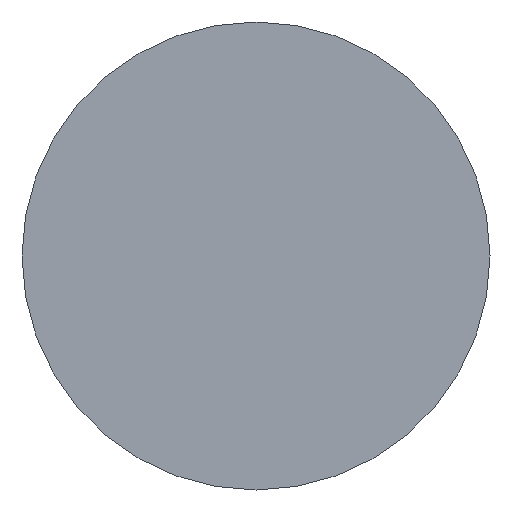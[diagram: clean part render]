
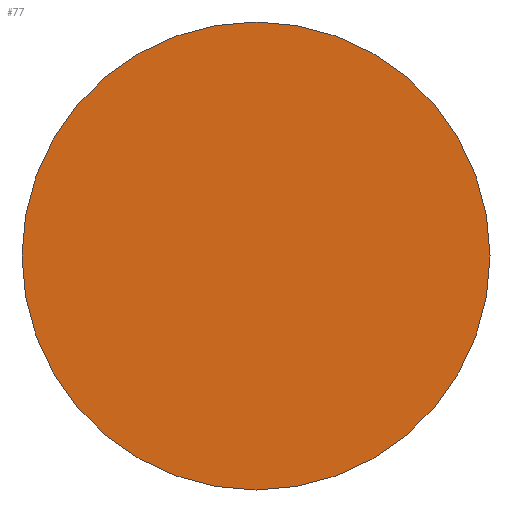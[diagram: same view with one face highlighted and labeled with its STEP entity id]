
A CAD part, left-side view. The second image highlights one B-rep face of the part: STEP entity #77.
In plain terms, the highlighted planar face has unit normal (-1, 0, 0).
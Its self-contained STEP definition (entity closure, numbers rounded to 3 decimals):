
#8 = EDGE_CURVE ( 'NONE', #224, #209, #9, .T. ) ;
#9 = CIRCLE ( 'NONE', #243, 8. ) ;
#27 = CARTESIAN_POINT ( 'NONE',  ( 0., 0., 0. ) ) ;
#29 = DIRECTION ( 'NONE',  ( 1., 0., 0. ) ) ;
#37 = ORIENTED_EDGE ( 'NONE', *, *, #8, .F. ) ;
#53 = CARTESIAN_POINT ( 'NONE',  ( 0., 0., 0. ) ) ;
#61 = AXIS2_PLACEMENT_3D ( 'NONE', #27, #29, #248 ) ;
#77 = ADVANCED_FACE ( 'NONE', ( #113 ), #201, .T. ) ;
#80 = EDGE_CURVE ( 'NONE', #209, #224, #270, .T. ) ;
#81 = DIRECTION ( 'NONE',  ( 1., 0., 0. ) ) ;
#100 = CARTESIAN_POINT ( 'NONE',  ( 0., 8., 0. ) ) ;
#113 = FACE_OUTER_BOUND ( 'NONE', #169, .T. ) ;
#119 = CARTESIAN_POINT ( 'NONE',  ( 0., -8., 0. ) ) ;
#131 = ORIENTED_EDGE ( 'NONE', *, *, #80, .F. ) ;
#151 = DIRECTION ( 'NONE',  ( -1., 0., 0. ) ) ;
#158 = DIRECTION ( 'NONE',  ( 0., 1., 0. ) ) ;
#169 = EDGE_LOOP ( 'NONE', ( #37, #131 ) ) ;
#182 = CARTESIAN_POINT ( 'NONE',  ( 0., 0., 0. ) ) ;
#201 = PLANE ( 'NONE',  #269 ) ;
#209 = VERTEX_POINT ( 'NONE', #119 ) ;
#224 = VERTEX_POINT ( 'NONE', #100 ) ;
#243 = AXIS2_PLACEMENT_3D ( 'NONE', #182, #81, #158 ) ;
#248 = DIRECTION ( 'NONE',  ( 0., 1., 0. ) ) ;
#253 = DIRECTION ( 'NONE',  ( 0., -1., 0. ) ) ;
#269 = AXIS2_PLACEMENT_3D ( 'NONE', #53, #151, #253 ) ;
#270 = CIRCLE ( 'NONE', #61, 8. ) ;
